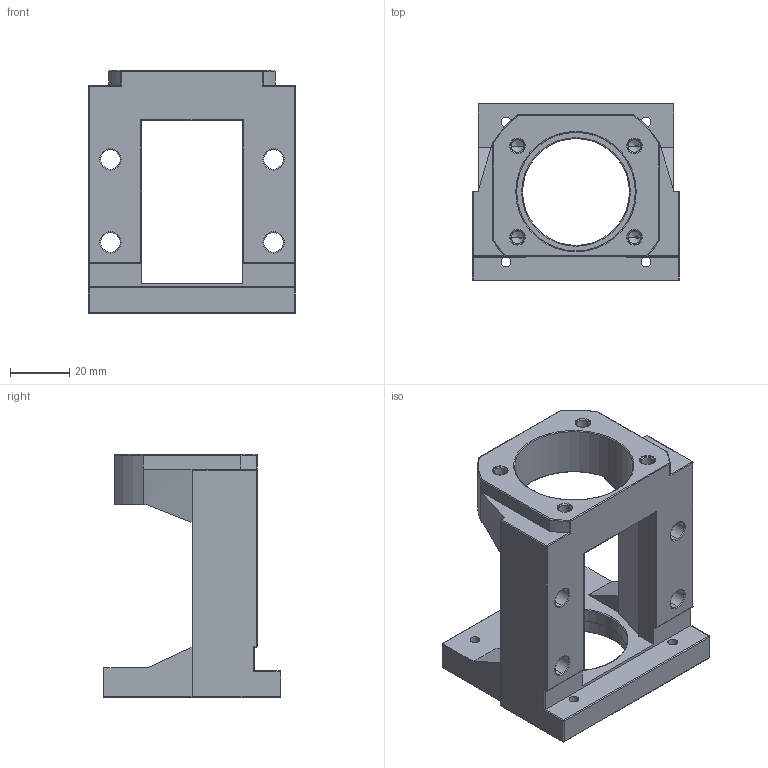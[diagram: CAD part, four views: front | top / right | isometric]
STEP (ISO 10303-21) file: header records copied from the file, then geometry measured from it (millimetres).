
FILE_DESCRIPTION (( 'STEP AP203' ), '1' );
FILE_NAME ('傳動座MBL15-C.STEP', '2020-06-30T06:13:59', ( '' ), ( '' ), 'SwSTEP 2.0', 'SolidWorks 2018', '' );
FILE_SCHEMA (( 'CONFIG_CONTROL_DESIGN' ));
Length unit declared in the file: millimetre
Products named in the file (1): 傳動座MBL15-C
Bounding box: 70 x 60 x 82 mm (x, y, z)
Volume: 94286.3 mm3; surface area: 28742.8 mm2
Topology: 1 solids, 1 shells, 198 faces, 479 edges, 268 vertices
Faces by surface type: cylinder 83, plane 39, torus 38, cone 24, sphere 14
Entity records: 5708 total; most frequent: DIRECTION 1055, CARTESIAN_POINT 1014, ORIENTED_EDGE 914, EDGE_CURVE 457, AXIS2_PLACEMENT_3D 425, VERTEX_POINT 268, EDGE_LOOP 227, CIRCLE 226
